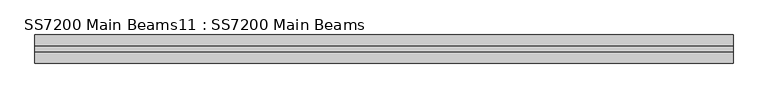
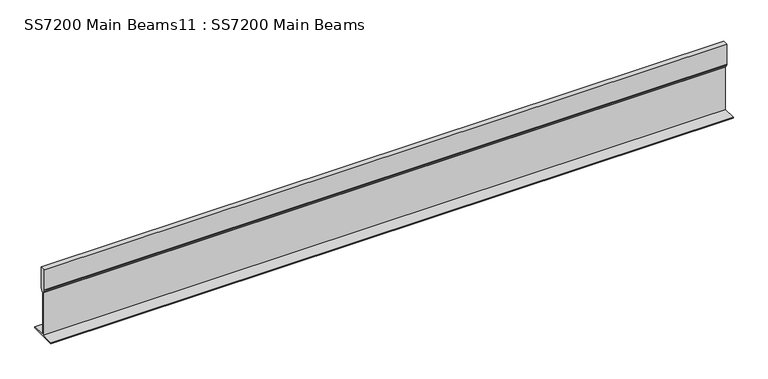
"""IFC4 building model written with IfcOpenShell, lengths in millimetres: beam geometry, SS7200 Main Beams11 : SS7200 Main Beams."""

from ifc_helpers import new_model, si_unit, point, frame, frame_2d, origin, place, context, project, spatial, polyline, circle_curve, trimmed, segment, composite_curve, outline, extrude, source, transform, mapped, element, save


def ss7200_main_beams11_ss7200_main_beams_49a61874(model_context):
    return source(origin(), model_context, "Body", "SweptSolid", [
        extrude(outline(composite_curve([segment(polyline([(10834.2774293, 3359.6653554), (10784.2774293, 3359.6653554), (10784.2774293, 3361.6497304), (10808.2874293, 3361.6497304), (10808.2874293, 3443.0809876)]), True, "CONTINUOUS"), segment(trimmed(circle_curve(frame_2d((10806.3030543, 3443.0809876)), 1.984375), [point((10808.2874293, 3443.0809876))], [point((10807.979427, 3444.1428345))], True, "CARTESIAN"), True, "CONTINUOUS"), segment(polyline([(10807.979427, 3444.1428345), (10804.8855164, 3449.0272929)]), True, "CONTINUOUS"), segment(trimmed(circle_curve(frame_2d((10807.9230315, 3450.9513139)), 3.5956022), [point((10804.8855164, 3449.0272929))], [point((10804.3274293, 3450.9513139))], False, "CARTESIAN"), True, "CONTINUOUS"), segment(polyline([(10804.3274293, 3450.9513139), (10804.3274293, 3489.6653554), (10814.2274293, 3489.6653554), (10814.2274293, 3450.9513139)]), True, "CONTINUOUS"), segment(trimmed(circle_curve(frame_2d((10810.6318271, 3450.9513139)), 3.5956022), [point((10814.2274293, 3450.9513139))], [point((10813.6693423, 3449.0272929))], False, "CARTESIAN"), True, "CONTINUOUS"), segment(polyline([(10813.6693423, 3449.0272929), (10810.5799523, 3444.1499714)]), True, "CONTINUOUS"), segment(trimmed(circle_curve(frame_2d((10812.2809296, 3443.0725394)), 2.0135002), [point((10810.5799523, 3444.1499714))], [point((10810.2674293, 3443.0725394))], True, "CARTESIAN"), True, "CONTINUOUS"), segment(polyline([(10810.2674293, 3443.0725394), (10810.2674293, 3361.6497304), (10834.2774293, 3361.6497304), (10834.2774293, 3359.6653554)]), True, "CONTINUOUS")], self_intersect=False)), frame((-8821.6130473, 0.0, 0.0), z_axis=(1.0, 0.0, 0.0), x_axis=(0.0, 1.0, 0.0)), (0.0, 0.0, 1.0), 1243.2078125),
    ])


if __name__ == "__main__":
    model = new_model("IFC4")
    model_context = context("Model", 3, world=origin())
    ifc_project = project(units=[si_unit("LENGTHUNIT", "METRE", prefix="MILLI")], contexts=[model_context])
    site = spatial("IfcSite", under=ifc_project)
    building = spatial("IfcBuilding", under=site)
    placement = place(None, origin())
    ss7200_main_beams11_ss7200_main_beams_shape = ss7200_main_beams11_ss7200_main_beams_49a61874(model_context)
    element("IfcBeam", 1, ObjectType="SS7200 Main Beams11 : SS7200 Main Beams", at=placement, inside=building, context=model_context, shape_type="MappedRepresentation", body=[
        mapped(ss7200_main_beams11_ss7200_main_beams_shape, transform((0.0, 0.0, 0.0), x_axis=(1.0, 0.0, 0.0), y_axis=(0.0, 1.0, 0.0), z_axis=(0.0, 0.0, 1.0))),
    ])
    save(model, "model.ifc")
